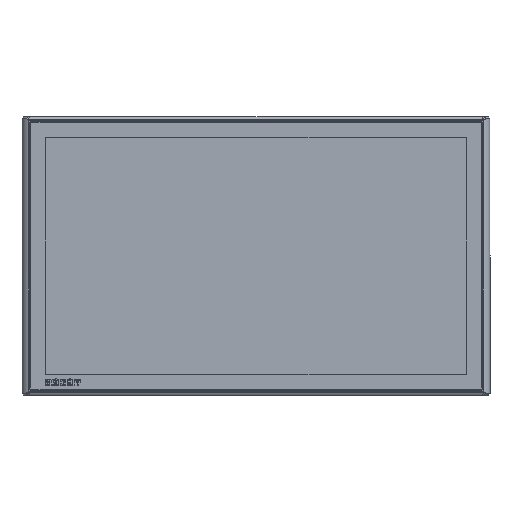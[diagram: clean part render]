
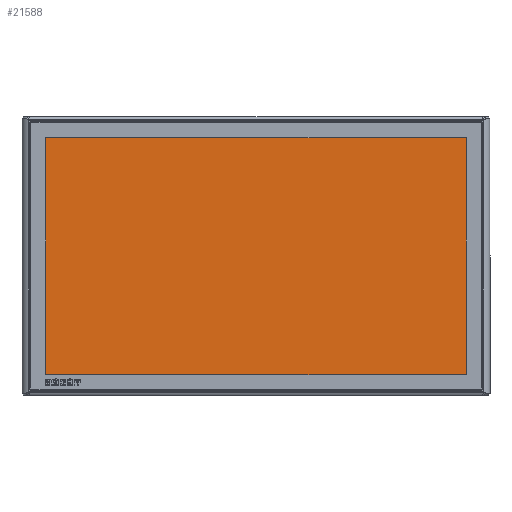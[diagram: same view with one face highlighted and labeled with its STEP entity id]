
A CAD part, top view. The second image highlights one B-rep face of the part: STEP entity #21588.
In plain terms, the highlighted planar face has unit normal (0, 0, 1).
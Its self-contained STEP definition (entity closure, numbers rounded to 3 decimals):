
#3564=FACE_OUTER_BOUND('',#4916,.T.);
#4916=EDGE_LOOP('',(#19652,#19653,#19654,#19655));
#6511=LINE('',#39012,#8137);
#6512=LINE('',#39014,#8138);
#6513=LINE('',#39016,#8139);
#6514=LINE('',#39017,#8140);
#8137=VECTOR('',#28138,10.);
#8138=VECTOR('',#28139,10.);
#8139=VECTOR('',#28140,10.);
#8140=VECTOR('',#28141,10.);
#10942=VERTEX_POINT('',#39010);
#10943=VERTEX_POINT('',#39011);
#10944=VERTEX_POINT('',#39013);
#10945=VERTEX_POINT('',#39015);
#13835=EDGE_CURVE('',#10942,#10943,#6511,.T.);
#13836=EDGE_CURVE('',#10944,#10942,#6512,.T.);
#13837=EDGE_CURVE('',#10945,#10944,#6513,.T.);
#13838=EDGE_CURVE('',#10943,#10945,#6514,.T.);
#19652=ORIENTED_EDGE('',*,*,#13835,.T.);
#19653=ORIENTED_EDGE('',*,*,#13838,.T.);
#19654=ORIENTED_EDGE('',*,*,#13837,.T.);
#19655=ORIENTED_EDGE('',*,*,#13836,.T.);
#20486=PLANE('',#23317);
#21588=ADVANCED_FACE('',(#3564),#20486,.T.);
#23317=AXIS2_PLACEMENT_3D('',#39101,#28244,#28245);
#28138=DIRECTION('',(0.,1.,0.));
#28139=DIRECTION('',(1.,0.,0.));
#28140=DIRECTION('',(0.,-1.,0.));
#28141=DIRECTION('',(-1.,0.,0.));
#28244=DIRECTION('center_axis',(0.,0.,
1.));
#28245=DIRECTION('ref_axis',(1.,0.,0.));
#39010=CARTESIAN_POINT('',(-30.085,-150.,0.));
#39011=CARTESIAN_POINT('',(-30.085,149.8,0.));
#39012=CARTESIAN_POINT('',(-30.085,74.85,0.));
#39013=CARTESIAN_POINT('',(-562.285,-150.,0.));
#39014=CARTESIAN_POINT('',(-163.135,-150.,0.));
#39015=CARTESIAN_POINT('',(-562.285,149.8,0.));
#39016=CARTESIAN_POINT('',(-562.285,-75.05,0.));
#39017=CARTESIAN_POINT('',(-429.235,149.8,0.));
#39101=CARTESIAN_POINT('Origin',(-296.185,-0.1,0.));
